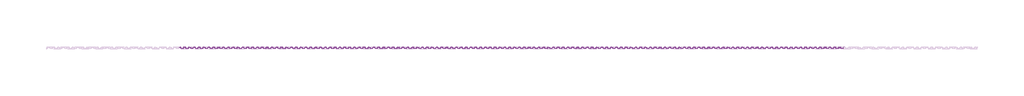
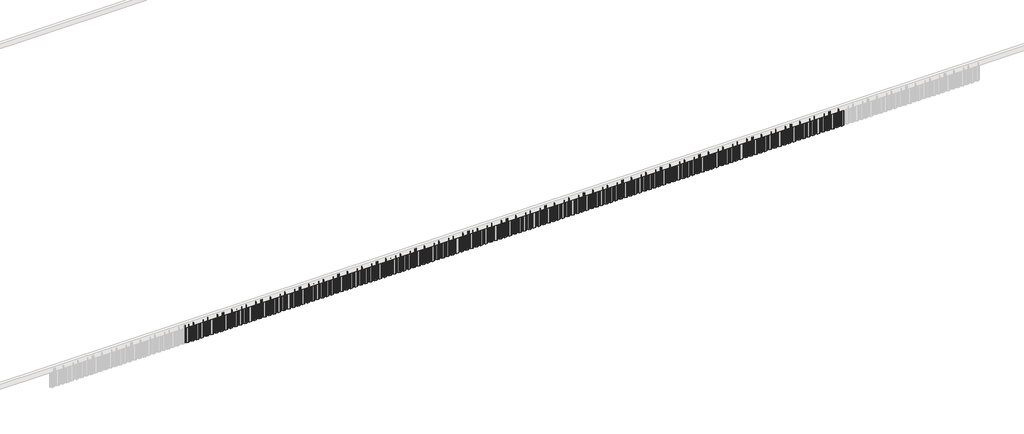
# One storey, part 2 of 6: 137 proxies.
"""IFC4 building model written with IfcOpenShell, lengths in millimetres."""

from ifc_helpers import new_model, si_unit, origin, place, context, project, spatial, transform, mapped, element, save
from components import generic_models_7553901d

model = new_model("IFC4")

# Units and contexts
model_context = context("Model", 3, world=origin())
ifc_project = project(units=[si_unit("LENGTHUNIT", "METRE", prefix="MILLI")], contexts=[model_context])

# Site, building, storey
site = spatial("IfcSite", under=ifc_project)
building = spatial("IfcBuilding", under=site)
storey = spatial("IfcBuildingStorey", under=building, Name="矢板", Elevation=0.0)

# Proxies
placement = place(None, origin())
generic_models_shape = generic_models_7553901d(model_context)
element("IfcBuildingElementProxy", 1, Name="鋼矢板10H型 : 鋼矢板10H型", ObjectType="鋼矢板10H型 : 鋼矢板10H型", at=placement, inside=storey, context=model_context, shape_type="MappedRepresentation", body=[
    mapped(generic_models_shape, transform((57402.5, -52500.0, 5850.0), x_axis=(-1.0, 0.0, 0.0), y_axis=(0.0, -1.0, 0.0), z_axis=(0.0, 0.0, 1.0))),
])
element("IfcBuildingElementProxy", 2, Name="鋼矢板10H型 : 鋼矢板10H型", ObjectType="鋼矢板10H型 : 鋼矢板10H型", at=placement, inside=storey, context=model_context, shape_type="MappedRepresentation", body=[
    mapped(generic_models_shape, transform((56502.5, -52500.0, 5850.0), x_axis=(-1.0, 0.0, 0.0), y_axis=(0.0, -1.0, 0.0), z_axis=(0.0, 0.0, 1.0))),
])
element("IfcBuildingElementProxy", 3, Name="鋼矢板10H型 : 鋼矢板10H型", ObjectType="鋼矢板10H型 : 鋼矢板10H型", at=placement, inside=storey, context=model_context, shape_type="MappedRepresentation", body=[
    mapped(generic_models_shape, transform((55602.5, -52500.0, 5850.0), x_axis=(-1.0, 0.0, 0.0), y_axis=(0.0, -1.0, 0.0), z_axis=(0.0, 0.0, 1.0))),
])
element("IfcBuildingElementProxy", 4, Name="鋼矢板10H型 : 鋼矢板10H型", ObjectType="鋼矢板10H型 : 鋼矢板10H型", at=placement, inside=storey, context=model_context, shape_type="MappedRepresentation", body=[
    mapped(generic_models_shape, transform((54702.5, -52500.0, 5850.0), x_axis=(-1.0, 0.0, 0.0), y_axis=(0.0, -1.0, 0.0), z_axis=(0.0, 0.0, 1.0))),
])
element("IfcBuildingElementProxy", 5, Name="鋼矢板10H型 : 鋼矢板10H型", ObjectType="鋼矢板10H型 : 鋼矢板10H型", at=placement, inside=storey, context=model_context, shape_type="MappedRepresentation", body=[
    mapped(generic_models_shape, transform((53802.5, -52500.0, 5850.0), x_axis=(-1.0, 0.0, 0.0), y_axis=(0.0, -1.0, 0.0), z_axis=(0.0, 0.0, 1.0))),
])
element("IfcBuildingElementProxy", 6, Name="鋼矢板10H型 : 鋼矢板10H型", ObjectType="鋼矢板10H型 : 鋼矢板10H型", at=placement, inside=storey, context=model_context, shape_type="MappedRepresentation", body=[
    mapped(generic_models_shape, transform((52902.5, -52500.0, 5850.0), x_axis=(-1.0, 0.0, 0.0), y_axis=(0.0, -1.0, 0.0), z_axis=(0.0, 0.0, 1.0))),
])
element("IfcBuildingElementProxy", 7, Name="鋼矢板10H型 : 鋼矢板10H型", ObjectType="鋼矢板10H型 : 鋼矢板10H型", at=placement, inside=storey, context=model_context, shape_type="MappedRepresentation", body=[
    mapped(generic_models_shape, transform((52002.5, -52500.0, 5850.0), x_axis=(-1.0, 0.0, 0.0), y_axis=(0.0, -1.0, 0.0), z_axis=(0.0, 0.0, 1.0))),
])
element("IfcBuildingElementProxy", 8, Name="鋼矢板10H型 : 鋼矢板10H型", ObjectType="鋼矢板10H型 : 鋼矢板10H型", at=placement, inside=storey, context=model_context, shape_type="MappedRepresentation", body=[
    mapped(generic_models_shape, transform((51102.5, -52500.0, 5850.0), x_axis=(-1.0, 0.0, 0.0), y_axis=(0.0, -1.0, 0.0), z_axis=(0.0, 0.0, 1.0))),
])
element("IfcBuildingElementProxy", 9, Name="鋼矢板10H型 : 鋼矢板10H型", ObjectType="鋼矢板10H型 : 鋼矢板10H型", at=placement, inside=storey, context=model_context, shape_type="MappedRepresentation", body=[
    mapped(generic_models_shape, transform((50202.5, -52500.0, 5850.0), x_axis=(-1.0, 0.0, 0.0), y_axis=(0.0, -1.0, 0.0), z_axis=(0.0, 0.0, 1.0))),
])
element("IfcBuildingElementProxy", 10, Name="鋼矢板10H型 : 鋼矢板10H型", ObjectType="鋼矢板10H型 : 鋼矢板10H型", at=placement, inside=storey, context=model_context, shape_type="MappedRepresentation", body=[
    mapped(generic_models_shape, transform((49302.5, -52500.0, 5850.0), x_axis=(-1.0, 0.0, 0.0), y_axis=(0.0, -1.0, 0.0), z_axis=(0.0, 0.0, 1.0))),
])
element("IfcBuildingElementProxy", 11, Name="鋼矢板10H型 : 鋼矢板10H型", ObjectType="鋼矢板10H型 : 鋼矢板10H型", at=placement, inside=storey, context=model_context, shape_type="MappedRepresentation", body=[
    mapped(generic_models_shape, transform((48402.5, -52500.0, 5850.0), x_axis=(-1.0, 0.0, 0.0), y_axis=(0.0, -1.0, 0.0), z_axis=(0.0, 0.0, 1.0))),
])
element("IfcBuildingElementProxy", 12, Name="鋼矢板10H型 : 鋼矢板10H型", ObjectType="鋼矢板10H型 : 鋼矢板10H型", at=placement, inside=storey, context=model_context, shape_type="MappedRepresentation", body=[
    mapped(generic_models_shape, transform((47502.5, -52500.0, 5850.0), x_axis=(-1.0, 0.0, 0.0), y_axis=(0.0, -1.0, 0.0), z_axis=(0.0, 0.0, 1.0))),
])
element("IfcBuildingElementProxy", 13, Name="鋼矢板10H型 : 鋼矢板10H型", ObjectType="鋼矢板10H型 : 鋼矢板10H型", at=placement, inside=storey, context=model_context, shape_type="MappedRepresentation", body=[
    mapped(generic_models_shape, transform((46602.5, -52500.0, 5850.0), x_axis=(-1.0, 0.0, 0.0), y_axis=(0.0, -1.0, 0.0), z_axis=(0.0, 0.0, 1.0))),
])
element("IfcBuildingElementProxy", 14, Name="鋼矢板10H型 : 鋼矢板10H型", ObjectType="鋼矢板10H型 : 鋼矢板10H型", at=placement, inside=storey, context=model_context, shape_type="MappedRepresentation", body=[
    mapped(generic_models_shape, transform((45702.5, -52500.0, 5850.0), x_axis=(-1.0, 0.0, 0.0), y_axis=(0.0, -1.0, 0.0), z_axis=(0.0, 0.0, 1.0))),
])
element("IfcBuildingElementProxy", 15, Name="鋼矢板10H型 : 鋼矢板10H型", ObjectType="鋼矢板10H型 : 鋼矢板10H型", at=placement, inside=storey, context=model_context, shape_type="MappedRepresentation", body=[
    mapped(generic_models_shape, transform((44802.5, -52500.0, 5850.0), x_axis=(-1.0, 0.0, 0.0), y_axis=(0.0, -1.0, 0.0), z_axis=(0.0, 0.0, 1.0))),
])
element("IfcBuildingElementProxy", 16, Name="鋼矢板10H型 : 鋼矢板10H型", ObjectType="鋼矢板10H型 : 鋼矢板10H型", at=placement, inside=storey, context=model_context, shape_type="MappedRepresentation", body=[
    mapped(generic_models_shape, transform((43902.5, -52500.0, 5850.0), x_axis=(-1.0, 0.0, 0.0), y_axis=(0.0, -1.0, 0.0), z_axis=(0.0, 0.0, 1.0))),
])
element("IfcBuildingElementProxy", 17, Name="鋼矢板10H型 : 鋼矢板10H型", ObjectType="鋼矢板10H型 : 鋼矢板10H型", at=placement, inside=storey, context=model_context, shape_type="MappedRepresentation", body=[
    mapped(generic_models_shape, transform((43002.5, -52500.0, 5850.0), x_axis=(-1.0, 0.0, 0.0), y_axis=(0.0, -1.0, 0.0), z_axis=(0.0, 0.0, 1.0))),
])
element("IfcBuildingElementProxy", 18, Name="鋼矢板10H型 : 鋼矢板10H型", ObjectType="鋼矢板10H型 : 鋼矢板10H型", at=placement, inside=storey, context=model_context, shape_type="MappedRepresentation", body=[
    mapped(generic_models_shape, transform((42102.5, -52500.0, 5850.0), x_axis=(-1.0, 0.0, 0.0), y_axis=(0.0, -1.0, 0.0), z_axis=(0.0, 0.0, 1.0))),
])
element("IfcBuildingElementProxy", 19, Name="鋼矢板10H型 : 鋼矢板10H型", ObjectType="鋼矢板10H型 : 鋼矢板10H型", at=placement, inside=storey, context=model_context, shape_type="MappedRepresentation", body=[
    mapped(generic_models_shape, transform((41202.5, -52500.0, 5850.0), x_axis=(-1.0, 0.0, 0.0), y_axis=(0.0, -1.0, 0.0), z_axis=(0.0, 0.0, 1.0))),
])
element("IfcBuildingElementProxy", 20, Name="鋼矢板10H型 : 鋼矢板10H型", ObjectType="鋼矢板10H型 : 鋼矢板10H型", at=placement, inside=storey, context=model_context, shape_type="MappedRepresentation", body=[
    mapped(generic_models_shape, transform((40302.5, -52500.0, 5850.0), x_axis=(-1.0, 0.0, 0.0), y_axis=(0.0, -1.0, 0.0), z_axis=(0.0, 0.0, 1.0))),
])
element("IfcBuildingElementProxy", 21, Name="鋼矢板10H型 : 鋼矢板10H型", ObjectType="鋼矢板10H型 : 鋼矢板10H型", at=placement, inside=storey, context=model_context, shape_type="MappedRepresentation", body=[
    mapped(generic_models_shape, transform((39402.5, -52500.0, 5850.0), x_axis=(-1.0, 0.0, 0.0), y_axis=(0.0, -1.0, 0.0), z_axis=(0.0, 0.0, 1.0))),
])
element("IfcBuildingElementProxy", 22, Name="鋼矢板10H型 : 鋼矢板10H型", ObjectType="鋼矢板10H型 : 鋼矢板10H型", at=placement, inside=storey, context=model_context, shape_type="MappedRepresentation", body=[
    mapped(generic_models_shape, transform((38502.5, -52500.0, 5850.0), x_axis=(-1.0, 0.0, 0.0), y_axis=(0.0, -1.0, 0.0), z_axis=(0.0, 0.0, 1.0))),
])
element("IfcBuildingElementProxy", 23, Name="鋼矢板10H型 : 鋼矢板10H型", ObjectType="鋼矢板10H型 : 鋼矢板10H型", at=placement, inside=storey, context=model_context, shape_type="MappedRepresentation", body=[
    mapped(generic_models_shape, transform((37602.5, -52500.0, 5850.0), x_axis=(-1.0, 0.0, 0.0), y_axis=(0.0, -1.0, 0.0), z_axis=(0.0, 0.0, 1.0))),
])
element("IfcBuildingElementProxy", 24, Name="鋼矢板10H型 : 鋼矢板10H型", ObjectType="鋼矢板10H型 : 鋼矢板10H型", at=placement, inside=storey, context=model_context, shape_type="MappedRepresentation", body=[
    mapped(generic_models_shape, transform((36702.5, -52500.0, 5850.0), x_axis=(-1.0, 0.0, 0.0), y_axis=(0.0, -1.0, 0.0), z_axis=(0.0, 0.0, 1.0))),
])
element("IfcBuildingElementProxy", 25, Name="鋼矢板10H型 : 鋼矢板10H型", ObjectType="鋼矢板10H型 : 鋼矢板10H型", at=placement, inside=storey, context=model_context, shape_type="MappedRepresentation", body=[
    mapped(generic_models_shape, transform((35802.5, -52500.0, 5850.0), x_axis=(-1.0, 0.0, 0.0), y_axis=(0.0, -1.0, 0.0), z_axis=(0.0, 0.0, 1.0))),
])
element("IfcBuildingElementProxy", 26, Name="鋼矢板10H型 : 鋼矢板10H型", ObjectType="鋼矢板10H型 : 鋼矢板10H型", at=placement, inside=storey, context=model_context, shape_type="MappedRepresentation", body=[
    mapped(generic_models_shape, transform((34902.5, -52500.0, 5850.0), x_axis=(-1.0, 0.0, 0.0), y_axis=(0.0, -1.0, 0.0), z_axis=(0.0, 0.0, 1.0))),
])
element("IfcBuildingElementProxy", 27, Name="鋼矢板10H型 : 鋼矢板10H型", ObjectType="鋼矢板10H型 : 鋼矢板10H型", at=placement, inside=storey, context=model_context, shape_type="MappedRepresentation", body=[
    mapped(generic_models_shape, transform((34002.5, -52500.0, 5850.0), x_axis=(-1.0, 0.0, 0.0), y_axis=(0.0, -1.0, 0.0), z_axis=(0.0, 0.0, 1.0))),
])
element("IfcBuildingElementProxy", 28, Name="鋼矢板10H型 : 鋼矢板10H型", ObjectType="鋼矢板10H型 : 鋼矢板10H型", at=placement, inside=storey, context=model_context, shape_type="MappedRepresentation", body=[
    mapped(generic_models_shape, transform((33102.5, -52500.0, 5850.0), x_axis=(-1.0, 0.0, 0.0), y_axis=(0.0, -1.0, 0.0), z_axis=(0.0, 0.0, 1.0))),
])
element("IfcBuildingElementProxy", 29, Name="鋼矢板10H型 : 鋼矢板10H型", ObjectType="鋼矢板10H型 : 鋼矢板10H型", at=placement, inside=storey, context=model_context, shape_type="MappedRepresentation", body=[
    mapped(generic_models_shape, transform((32202.5, -52500.0, 5850.0), x_axis=(-1.0, 0.0, 0.0), y_axis=(0.0, -1.0, 0.0), z_axis=(0.0, 0.0, 1.0))),
])
element("IfcBuildingElementProxy", 30, Name="鋼矢板10H型 : 鋼矢板10H型", ObjectType="鋼矢板10H型 : 鋼矢板10H型", at=placement, inside=storey, context=model_context, shape_type="MappedRepresentation", body=[
    mapped(generic_models_shape, transform((31302.5, -52500.0, 5850.0), x_axis=(-1.0, 0.0, 0.0), y_axis=(0.0, -1.0, 0.0), z_axis=(0.0, 0.0, 1.0))),
])
element("IfcBuildingElementProxy", 31, Name="鋼矢板10H型 : 鋼矢板10H型", ObjectType="鋼矢板10H型 : 鋼矢板10H型", at=placement, inside=storey, context=model_context, shape_type="MappedRepresentation", body=[
    mapped(generic_models_shape, transform((30402.5, -52500.0, 5850.0), x_axis=(-1.0, 0.0, 0.0), y_axis=(0.0, -1.0, 0.0), z_axis=(0.0, 0.0, 1.0))),
])
element("IfcBuildingElementProxy", 32, Name="鋼矢板10H型 : 鋼矢板10H型", ObjectType="鋼矢板10H型 : 鋼矢板10H型", at=placement, inside=storey, context=model_context, shape_type="MappedRepresentation", body=[
    mapped(generic_models_shape, transform((29502.5, -52500.0, 5850.0), x_axis=(-1.0, 0.0, 0.0), y_axis=(0.0, -1.0, 0.0), z_axis=(0.0, 0.0, 1.0))),
])
element("IfcBuildingElementProxy", 33, Name="鋼矢板10H型 : 鋼矢板10H型", ObjectType="鋼矢板10H型 : 鋼矢板10H型", at=placement, inside=storey, context=model_context, shape_type="MappedRepresentation", body=[
    mapped(generic_models_shape, transform((28602.5, -52500.0, 5850.0), x_axis=(-1.0, 0.0, 0.0), y_axis=(0.0, -1.0, 0.0), z_axis=(0.0, 0.0, 1.0))),
])
element("IfcBuildingElementProxy", 34, Name="鋼矢板10H型 : 鋼矢板10H型", ObjectType="鋼矢板10H型 : 鋼矢板10H型", at=placement, inside=storey, context=model_context, shape_type="MappedRepresentation", body=[
    mapped(generic_models_shape, transform((27702.5, -52500.0, 5850.0), x_axis=(-1.0, 0.0, 0.0), y_axis=(0.0, -1.0, 0.0), z_axis=(0.0, 0.0, 1.0))),
])
element("IfcBuildingElementProxy", 35, Name="鋼矢板10H型 : 鋼矢板10H型", ObjectType="鋼矢板10H型 : 鋼矢板10H型", at=placement, inside=storey, context=model_context, shape_type="MappedRepresentation", body=[
    mapped(generic_models_shape, transform((26802.5, -52500.0, 5850.0), x_axis=(-1.0, 0.0, 0.0), y_axis=(0.0, -1.0, 0.0), z_axis=(0.0, 0.0, 1.0))),
])
element("IfcBuildingElementProxy", 36, Name="鋼矢板10H型 : 鋼矢板10H型", ObjectType="鋼矢板10H型 : 鋼矢板10H型", at=placement, inside=storey, context=model_context, shape_type="MappedRepresentation", body=[
    mapped(generic_models_shape, transform((25902.5, -52500.0, 5850.0), x_axis=(-1.0, 0.0, 0.0), y_axis=(0.0, -1.0, 0.0), z_axis=(0.0, 0.0, 1.0))),
])
element("IfcBuildingElementProxy", 37, Name="鋼矢板10H型 : 鋼矢板10H型", ObjectType="鋼矢板10H型 : 鋼矢板10H型", at=placement, inside=storey, context=model_context, shape_type="MappedRepresentation", body=[
    mapped(generic_models_shape, transform((25002.5, -52500.0, 5850.0), x_axis=(-1.0, 0.0, 0.0), y_axis=(0.0, -1.0, 0.0), z_axis=(0.0, 0.0, 1.0))),
])
element("IfcBuildingElementProxy", 38, Name="鋼矢板10H型 : 鋼矢板10H型", ObjectType="鋼矢板10H型 : 鋼矢板10H型", at=placement, inside=storey, context=model_context, shape_type="MappedRepresentation", body=[
    mapped(generic_models_shape, transform((24102.5, -52500.0, 5850.0), x_axis=(-1.0, 0.0, 0.0), y_axis=(0.0, -1.0, 0.0), z_axis=(0.0, 0.0, 1.0))),
])
element("IfcBuildingElementProxy", 39, Name="鋼矢板10H型 : 鋼矢板10H型", ObjectType="鋼矢板10H型 : 鋼矢板10H型", at=placement, inside=storey, context=model_context, shape_type="MappedRepresentation", body=[
    mapped(generic_models_shape, transform((23202.5, -52500.0, 5850.0), x_axis=(-1.0, 0.0, 0.0), y_axis=(0.0, -1.0, 0.0), z_axis=(0.0, 0.0, 1.0))),
])
element("IfcBuildingElementProxy", 40, Name="鋼矢板10H型 : 鋼矢板10H型", ObjectType="鋼矢板10H型 : 鋼矢板10H型", at=placement, inside=storey, context=model_context, shape_type="MappedRepresentation", body=[
    mapped(generic_models_shape, transform((22302.5, -52500.0, 5850.0), x_axis=(-1.0, 0.0, 0.0), y_axis=(0.0, -1.0, 0.0), z_axis=(0.0, 0.0, 1.0))),
])
element("IfcBuildingElementProxy", 41, Name="鋼矢板10H型 : 鋼矢板10H型", ObjectType="鋼矢板10H型 : 鋼矢板10H型", at=placement, inside=storey, context=model_context, shape_type="MappedRepresentation", body=[
    mapped(generic_models_shape, transform((21402.5, -52500.0, 5850.0), x_axis=(-1.0, 0.0, 0.0), y_axis=(0.0, -1.0, 0.0), z_axis=(0.0, 0.0, 1.0))),
])
element("IfcBuildingElementProxy", 42, Name="鋼矢板10H型 : 鋼矢板10H型", ObjectType="鋼矢板10H型 : 鋼矢板10H型", at=placement, inside=storey, context=model_context, shape_type="MappedRepresentation", body=[
    mapped(generic_models_shape, transform((20502.5, -52500.0, 5850.0), x_axis=(-1.0, 0.0, 0.0), y_axis=(0.0, -1.0, 0.0), z_axis=(0.0, 0.0, 1.0))),
])
element("IfcBuildingElementProxy", 43, Name="鋼矢板10H型 : 鋼矢板10H型", ObjectType="鋼矢板10H型 : 鋼矢板10H型", at=placement, inside=storey, context=model_context, shape_type="MappedRepresentation", body=[
    mapped(generic_models_shape, transform((19602.5, -52500.0, 5850.0), x_axis=(-1.0, 0.0, 0.0), y_axis=(0.0, -1.0, 0.0), z_axis=(0.0, 0.0, 1.0))),
])
element("IfcBuildingElementProxy", 44, Name="鋼矢板10H型 : 鋼矢板10H型", ObjectType="鋼矢板10H型 : 鋼矢板10H型", at=placement, inside=storey, context=model_context, shape_type="MappedRepresentation", body=[
    mapped(generic_models_shape, transform((18702.5, -52500.0, 5850.0), x_axis=(-1.0, 0.0, 0.0), y_axis=(0.0, -1.0, 0.0), z_axis=(0.0, 0.0, 1.0))),
])
element("IfcBuildingElementProxy", 45, Name="鋼矢板10H型 : 鋼矢板10H型", ObjectType="鋼矢板10H型 : 鋼矢板10H型", at=placement, inside=storey, context=model_context, shape_type="MappedRepresentation", body=[
    mapped(generic_models_shape, transform((17802.5, -52500.0, 5850.0), x_axis=(-1.0, 0.0, 0.0), y_axis=(0.0, -1.0, 0.0), z_axis=(0.0, 0.0, 1.0))),
])
element("IfcBuildingElementProxy", 46, Name="鋼矢板10H型 : 鋼矢板10H型", ObjectType="鋼矢板10H型 : 鋼矢板10H型", at=placement, inside=storey, context=model_context, shape_type="MappedRepresentation", body=[
    mapped(generic_models_shape, transform((16902.5, -52500.0, 5850.0), x_axis=(-1.0, 0.0, 0.0), y_axis=(0.0, -1.0, 0.0), z_axis=(0.0, 0.0, 1.0))),
])
element("IfcBuildingElementProxy", 47, Name="鋼矢板10H型 : 鋼矢板10H型", ObjectType="鋼矢板10H型 : 鋼矢板10H型", at=placement, inside=storey, context=model_context, shape_type="MappedRepresentation", body=[
    mapped(generic_models_shape, transform((16002.5, -52500.0, 5850.0), x_axis=(-1.0, 0.0, 0.0), y_axis=(0.0, -1.0, 0.0), z_axis=(0.0, 0.0, 1.0))),
])
element("IfcBuildingElementProxy", 48, Name="鋼矢板10H型 : 鋼矢板10H型", ObjectType="鋼矢板10H型 : 鋼矢板10H型", at=placement, inside=storey, context=model_context, shape_type="MappedRepresentation", body=[
    mapped(generic_models_shape, transform((15102.5, -52500.0, 5850.0), x_axis=(-1.0, 0.0, 0.0), y_axis=(0.0, -1.0, 0.0), z_axis=(0.0, 0.0, 1.0))),
])
element("IfcBuildingElementProxy", 49, Name="鋼矢板10H型 : 鋼矢板10H型", ObjectType="鋼矢板10H型 : 鋼矢板10H型", at=placement, inside=storey, context=model_context, shape_type="MappedRepresentation", body=[
    mapped(generic_models_shape, transform((14202.5, -52500.0, 5850.0), x_axis=(-1.0, 0.0, 0.0), y_axis=(0.0, -1.0, 0.0), z_axis=(0.0, 0.0, 1.0))),
])
element("IfcBuildingElementProxy", 50, Name="鋼矢板10H型 : 鋼矢板10H型", ObjectType="鋼矢板10H型 : 鋼矢板10H型", at=placement, inside=storey, context=model_context, shape_type="MappedRepresentation", body=[
    mapped(generic_models_shape, transform((13302.5, -52500.0, 5850.0), x_axis=(-1.0, 0.0, 0.0), y_axis=(0.0, -1.0, 0.0), z_axis=(0.0, 0.0, 1.0))),
])
element("IfcBuildingElementProxy", 51, Name="鋼矢板10H型 : 鋼矢板10H型", ObjectType="鋼矢板10H型 : 鋼矢板10H型", at=placement, inside=storey, context=model_context, shape_type="MappedRepresentation", body=[
    mapped(generic_models_shape, transform((12402.5, -52500.0, 5850.0), x_axis=(-1.0, 0.0, 0.0), y_axis=(0.0, -1.0, 0.0), z_axis=(0.0, 0.0, 1.0))),
])
element("IfcBuildingElementProxy", 52, Name="鋼矢板10H型 : 鋼矢板10H型", ObjectType="鋼矢板10H型 : 鋼矢板10H型", at=placement, inside=storey, context=model_context, shape_type="MappedRepresentation", body=[
    mapped(generic_models_shape, transform((11502.5, -52500.0, 5850.0), x_axis=(-1.0, 0.0, 0.0), y_axis=(0.0, -1.0, 0.0), z_axis=(0.0, 0.0, 1.0))),
])
element("IfcBuildingElementProxy", 53, Name="鋼矢板10H型 : 鋼矢板10H型", ObjectType="鋼矢板10H型 : 鋼矢板10H型", at=placement, inside=storey, context=model_context, shape_type="MappedRepresentation", body=[
    mapped(generic_models_shape, transform((10602.5, -52500.0, 5850.0), x_axis=(-1.0, 0.0, 0.0), y_axis=(0.0, -1.0, 0.0), z_axis=(0.0, 0.0, 1.0))),
])
element("IfcBuildingElementProxy", 54, Name="鋼矢板10H型 : 鋼矢板10H型", ObjectType="鋼矢板10H型 : 鋼矢板10H型", at=placement, inside=storey, context=model_context, shape_type="MappedRepresentation", body=[
    mapped(generic_models_shape, transform((9702.5, -52500.0, 5850.0), x_axis=(-1.0, 0.0, 0.0), y_axis=(0.0, -1.0, 0.0), z_axis=(0.0, 0.0, 1.0))),
])
element("IfcBuildingElementProxy", 55, Name="鋼矢板10H型 : 鋼矢板10H型", ObjectType="鋼矢板10H型 : 鋼矢板10H型", at=placement, inside=storey, context=model_context, shape_type="MappedRepresentation", body=[
    mapped(generic_models_shape, transform((8802.5, -52500.0, 5850.0), x_axis=(-1.0, 0.0, 0.0), y_axis=(0.0, -1.0, 0.0), z_axis=(0.0, 0.0, 1.0))),
])
element("IfcBuildingElementProxy", 56, Name="鋼矢板10H型 : 鋼矢板10H型", ObjectType="鋼矢板10H型 : 鋼矢板10H型", at=placement, inside=storey, context=model_context, shape_type="MappedRepresentation", body=[
    mapped(generic_models_shape, transform((7902.5, -52500.0, 5850.0), x_axis=(-1.0, 0.0, 0.0), y_axis=(0.0, -1.0, 0.0), z_axis=(0.0, 0.0, 1.0))),
])
element("IfcBuildingElementProxy", 57, Name="鋼矢板10H型 : 鋼矢板10H型", ObjectType="鋼矢板10H型 : 鋼矢板10H型", at=placement, inside=storey, context=model_context, shape_type="MappedRepresentation", body=[
    mapped(generic_models_shape, transform((7002.5, -52500.0, 5850.0), x_axis=(-1.0, 0.0, 0.0), y_axis=(0.0, -1.0, 0.0), z_axis=(0.0, 0.0, 1.0))),
])
element("IfcBuildingElementProxy", 58, Name="鋼矢板10H型 : 鋼矢板10H型", ObjectType="鋼矢板10H型 : 鋼矢板10H型", at=placement, inside=storey, context=model_context, shape_type="MappedRepresentation", body=[
    mapped(generic_models_shape, transform((6102.5, -52500.0, 5850.0), x_axis=(-1.0, 0.0, 0.0), y_axis=(0.0, -1.0, 0.0), z_axis=(0.0, 0.0, 1.0))),
])
element("IfcBuildingElementProxy", 59, Name="鋼矢板10H型 : 鋼矢板10H型", ObjectType="鋼矢板10H型 : 鋼矢板10H型", at=placement, inside=storey, context=model_context, shape_type="MappedRepresentation", body=[
    mapped(generic_models_shape, transform((5202.5, -52500.0, 5850.0), x_axis=(-1.0, 0.0, 0.0), y_axis=(0.0, -1.0, 0.0), z_axis=(0.0, 0.0, 1.0))),
])
element("IfcBuildingElementProxy", 60, Name="鋼矢板10H型 : 鋼矢板10H型", ObjectType="鋼矢板10H型 : 鋼矢板10H型", at=placement, inside=storey, context=model_context, shape_type="MappedRepresentation", body=[
    mapped(generic_models_shape, transform((4302.5, -52500.0, 5850.0), x_axis=(-1.0, 0.0, 0.0), y_axis=(0.0, -1.0, 0.0), z_axis=(0.0, 0.0, 1.0))),
])
element("IfcBuildingElementProxy", 61, Name="鋼矢板10H型 : 鋼矢板10H型", ObjectType="鋼矢板10H型 : 鋼矢板10H型", at=placement, inside=storey, context=model_context, shape_type="MappedRepresentation", body=[
    mapped(generic_models_shape, transform((3402.5, -52500.0, 5850.0), x_axis=(-1.0, 0.0, 0.0), y_axis=(0.0, -1.0, 0.0), z_axis=(0.0, 0.0, 1.0))),
])
element("IfcBuildingElementProxy", 62, Name="鋼矢板10H型 : 鋼矢板10H型", ObjectType="鋼矢板10H型 : 鋼矢板10H型", at=placement, inside=storey, context=model_context, shape_type="MappedRepresentation", body=[
    mapped(generic_models_shape, transform((2502.5, -52500.0, 5850.0), x_axis=(-1.0, 0.0, 0.0), y_axis=(0.0, -1.0, 0.0), z_axis=(0.0, 0.0, 1.0))),
])
element("IfcBuildingElementProxy", 63, Name="鋼矢板10H型 : 鋼矢板10H型", ObjectType="鋼矢板10H型 : 鋼矢板10H型", at=placement, inside=storey, context=model_context, shape_type="MappedRepresentation", body=[
    mapped(generic_models_shape, transform((1602.5, -52500.0, 5850.0), x_axis=(-1.0, 0.0, 0.0), y_axis=(0.0, -1.0, 0.0), z_axis=(0.0, 0.0, 1.0))),
])
element("IfcBuildingElementProxy", 64, Name="鋼矢板10H型 : 鋼矢板10H型", ObjectType="鋼矢板10H型 : 鋼矢板10H型", at=placement, inside=storey, context=model_context, shape_type="MappedRepresentation", body=[
    mapped(generic_models_shape, transform((702.5, -52500.0, 5850.0), x_axis=(-1.0, 0.0, 0.0), y_axis=(0.0, -1.0, 0.0), z_axis=(0.0, 0.0, 1.0))),
])
element("IfcBuildingElementProxy", 65, Name="鋼矢板10H型 : 鋼矢板10H型", ObjectType="鋼矢板10H型 : 鋼矢板10H型", at=placement, inside=storey, context=model_context, shape_type="MappedRepresentation", body=[
    mapped(generic_models_shape, transform((-197.5, -52500.0, 5850.0), x_axis=(-1.0, 0.0, 0.0), y_axis=(0.0, -1.0, 0.0), z_axis=(0.0, 0.0, 1.0))),
])
element("IfcBuildingElementProxy", 66, Name="鋼矢板10H型 : 鋼矢板10H型", ObjectType="鋼矢板10H型 : 鋼矢板10H型", at=placement, inside=storey, context=model_context, shape_type="MappedRepresentation", body=[
    mapped(generic_models_shape, transform((-1097.5, -52500.0, 5850.0), x_axis=(-1.0, 0.0, 0.0), y_axis=(0.0, -1.0, 0.0), z_axis=(0.0, 0.0, 1.0))),
])
element("IfcBuildingElementProxy", 67, Name="鋼矢板10H型 : 鋼矢板10H型", ObjectType="鋼矢板10H型 : 鋼矢板10H型", at=placement, inside=storey, context=model_context, shape_type="MappedRepresentation", body=[
    mapped(generic_models_shape, transform((-1997.5, -52500.0, 5850.0), x_axis=(-1.0, 0.0, 0.0), y_axis=(0.0, -1.0, 0.0), z_axis=(0.0, 0.0, 1.0))),
])
element("IfcBuildingElementProxy", 68, Name="鋼矢板10H型 : 鋼矢板10H型", ObjectType="鋼矢板10H型 : 鋼矢板10H型", at=placement, inside=storey, context=model_context, shape_type="MappedRepresentation", body=[
    mapped(generic_models_shape, transform((-2897.5, -52500.0, 5850.0), x_axis=(-1.0, 0.0, 0.0), y_axis=(0.0, -1.0, 0.0), z_axis=(0.0, 0.0, 1.0))),
])
element("IfcBuildingElementProxy", 69, Name="鋼矢板10H型 : 鋼矢板10H型", ObjectType="鋼矢板10H型 : 鋼矢板10H型", at=placement, inside=storey, context=model_context, shape_type="MappedRepresentation", body=[
    mapped(generic_models_shape, transform((-3797.5, -52500.0, 5850.0), x_axis=(-1.0, 0.0, 0.0), y_axis=(0.0, -1.0, 0.0), z_axis=(0.0, 0.0, 1.0))),
])
element("IfcBuildingElementProxy", 70, Name="鋼矢板10H型 : 鋼矢板10H型", ObjectType="鋼矢板10H型 : 鋼矢板10H型", at=placement, inside=storey, context=model_context, shape_type="MappedRepresentation", body=[
    mapped(generic_models_shape, transform((-4697.5, -52500.0, 5850.0), x_axis=(-1.0, 0.0, 0.0), y_axis=(0.0, -1.0, 0.0), z_axis=(0.0, 0.0, 1.0))),
])
element("IfcBuildingElementProxy", 71, Name="鋼矢板10H型 : 鋼矢板10H型", ObjectType="鋼矢板10H型 : 鋼矢板10H型", at=placement, inside=storey, context=model_context, shape_type="MappedRepresentation", body=[
    mapped(generic_models_shape, transform((-5597.5, -52500.0, 5850.0), x_axis=(-1.0, 0.0, 0.0), y_axis=(0.0, -1.0, 0.0), z_axis=(0.0, 0.0, 1.0))),
])
element("IfcBuildingElementProxy", 72, Name="鋼矢板10H型 : 鋼矢板10H型", ObjectType="鋼矢板10H型 : 鋼矢板10H型", at=placement, inside=storey, context=model_context, shape_type="MappedRepresentation", body=[
    mapped(generic_models_shape, transform((-6497.5, -52500.0, 5850.0), x_axis=(-1.0, 0.0, 0.0), y_axis=(0.0, -1.0, 0.0), z_axis=(0.0, 0.0, 1.0))),
])
element("IfcBuildingElementProxy", 73, Name="鋼矢板10H型 : 鋼矢板10H型", ObjectType="鋼矢板10H型 : 鋼矢板10H型", at=placement, inside=storey, context=model_context, shape_type="MappedRepresentation", body=[
    mapped(generic_models_shape, transform((-7397.5, -52500.0, 5850.0), x_axis=(-1.0, 0.0, 0.0), y_axis=(0.0, -1.0, 0.0), z_axis=(0.0, 0.0, 1.0))),
])
element("IfcBuildingElementProxy", 74, Name="鋼矢板10H型 : 鋼矢板10H型", ObjectType="鋼矢板10H型 : 鋼矢板10H型", at=placement, inside=storey, context=model_context, shape_type="MappedRepresentation", body=[
    mapped(generic_models_shape, transform((-8297.5, -52500.0, 5850.0), x_axis=(-1.0, 0.0, 0.0), y_axis=(0.0, -1.0, 0.0), z_axis=(0.0, 0.0, 1.0))),
])
element("IfcBuildingElementProxy", 75, Name="鋼矢板10H型 : 鋼矢板10H型", ObjectType="鋼矢板10H型 : 鋼矢板10H型", at=placement, inside=storey, context=model_context, shape_type="MappedRepresentation", body=[
    mapped(generic_models_shape, transform((-9197.5, -52500.0, 5850.0), x_axis=(-1.0, 0.0, 0.0), y_axis=(0.0, -1.0, 0.0), z_axis=(0.0, 0.0, 1.0))),
])
element("IfcBuildingElementProxy", 76, Name="鋼矢板10H型 : 鋼矢板10H型", ObjectType="鋼矢板10H型 : 鋼矢板10H型", at=placement, inside=storey, context=model_context, shape_type="MappedRepresentation", body=[
    mapped(generic_models_shape, transform((-10097.5, -52500.0, 5850.0), x_axis=(-1.0, 0.0, 0.0), y_axis=(0.0, -1.0, 0.0), z_axis=(0.0, 0.0, 1.0))),
])
element("IfcBuildingElementProxy", 77, Name="鋼矢板10H型 : 鋼矢板10H型", ObjectType="鋼矢板10H型 : 鋼矢板10H型", at=placement, inside=storey, context=model_context, shape_type="MappedRepresentation", body=[
    mapped(generic_models_shape, transform((-10997.5, -52500.0, 5850.0), x_axis=(-1.0, 0.0, 0.0), y_axis=(0.0, -1.0, 0.0), z_axis=(0.0, 0.0, 1.0))),
])
element("IfcBuildingElementProxy", 78, Name="鋼矢板10H型 : 鋼矢板10H型", ObjectType="鋼矢板10H型 : 鋼矢板10H型", at=placement, inside=storey, context=model_context, shape_type="MappedRepresentation", body=[
    mapped(generic_models_shape, transform((-11897.5, -52500.0, 5850.0), x_axis=(-1.0, 0.0, 0.0), y_axis=(0.0, -1.0, 0.0), z_axis=(0.0, 0.0, 1.0))),
])
element("IfcBuildingElementProxy", 79, Name="鋼矢板10H型 : 鋼矢板10H型", ObjectType="鋼矢板10H型 : 鋼矢板10H型", at=placement, inside=storey, context=model_context, shape_type="MappedRepresentation", body=[
    mapped(generic_models_shape, transform((-12797.5, -52500.0, 5850.0), x_axis=(-1.0, 0.0, 0.0), y_axis=(0.0, -1.0, 0.0), z_axis=(0.0, 0.0, 1.0))),
])
element("IfcBuildingElementProxy", 80, Name="鋼矢板10H型 : 鋼矢板10H型", ObjectType="鋼矢板10H型 : 鋼矢板10H型", at=placement, inside=storey, context=model_context, shape_type="MappedRepresentation", body=[
    mapped(generic_models_shape, transform((-13697.5, -52500.0, 5850.0), x_axis=(-1.0, 0.0, 0.0), y_axis=(0.0, -1.0, 0.0), z_axis=(0.0, 0.0, 1.0))),
])
element("IfcBuildingElementProxy", 81, Name="鋼矢板10H型 : 鋼矢板10H型", ObjectType="鋼矢板10H型 : 鋼矢板10H型", at=placement, inside=storey, context=model_context, shape_type="MappedRepresentation", body=[
    mapped(generic_models_shape, transform((-14597.5, -52500.0, 5850.0), x_axis=(-1.0, 0.0, 0.0), y_axis=(0.0, -1.0, 0.0), z_axis=(0.0, 0.0, 1.0))),
])
element("IfcBuildingElementProxy", 82, Name="鋼矢板10H型 : 鋼矢板10H型", ObjectType="鋼矢板10H型 : 鋼矢板10H型", at=placement, inside=storey, context=model_context, shape_type="MappedRepresentation", body=[
    mapped(generic_models_shape, transform((-15497.5, -52500.0, 5850.0), x_axis=(-1.0, 0.0, 0.0), y_axis=(0.0, -1.0, 0.0), z_axis=(0.0, 0.0, 1.0))),
])
element("IfcBuildingElementProxy", 83, Name="鋼矢板10H型 : 鋼矢板10H型", ObjectType="鋼矢板10H型 : 鋼矢板10H型", at=placement, inside=storey, context=model_context, shape_type="MappedRepresentation", body=[
    mapped(generic_models_shape, transform((-16397.5, -52500.0, 5850.0), x_axis=(-1.0, 0.0, 0.0), y_axis=(0.0, -1.0, 0.0), z_axis=(0.0, 0.0, 1.0))),
])
element("IfcBuildingElementProxy", 84, Name="鋼矢板10H型 : 鋼矢板10H型", ObjectType="鋼矢板10H型 : 鋼矢板10H型", at=placement, inside=storey, context=model_context, shape_type="MappedRepresentation", body=[
    mapped(generic_models_shape, transform((-17297.5, -52500.0, 5850.0), x_axis=(-1.0, 0.0, 0.0), y_axis=(0.0, -1.0, 0.0), z_axis=(0.0, 0.0, 1.0))),
])
element("IfcBuildingElementProxy", 85, Name="鋼矢板10H型 : 鋼矢板10H型", ObjectType="鋼矢板10H型 : 鋼矢板10H型", at=placement, inside=storey, context=model_context, shape_type="MappedRepresentation", body=[
    mapped(generic_models_shape, transform((-18197.5, -52500.0, 5850.0), x_axis=(-1.0, 0.0, 0.0), y_axis=(0.0, -1.0, 0.0), z_axis=(0.0, 0.0, 1.0))),
])
element("IfcBuildingElementProxy", 86, Name="鋼矢板10H型 : 鋼矢板10H型", ObjectType="鋼矢板10H型 : 鋼矢板10H型", at=placement, inside=storey, context=model_context, shape_type="MappedRepresentation", body=[
    mapped(generic_models_shape, transform((-19097.5, -52500.0, 5850.0), x_axis=(-1.0, 0.0, 0.0), y_axis=(0.0, -1.0, 0.0), z_axis=(0.0, 0.0, 1.0))),
])
element("IfcBuildingElementProxy", 87, Name="鋼矢板10H型 : 鋼矢板10H型", ObjectType="鋼矢板10H型 : 鋼矢板10H型", at=placement, inside=storey, context=model_context, shape_type="MappedRepresentation", body=[
    mapped(generic_models_shape, transform((-19997.5, -52500.0, 5850.0), x_axis=(-1.0, 0.0, 0.0), y_axis=(0.0, -1.0, 0.0), z_axis=(0.0, 0.0, 1.0))),
])
element("IfcBuildingElementProxy", 88, Name="鋼矢板10H型 : 鋼矢板10H型", ObjectType="鋼矢板10H型 : 鋼矢板10H型", at=placement, inside=storey, context=model_context, shape_type="MappedRepresentation", body=[
    mapped(generic_models_shape, transform((-20897.5, -52500.0, 5850.0), x_axis=(-1.0, 0.0, 0.0), y_axis=(0.0, -1.0, 0.0), z_axis=(0.0, 0.0, 1.0))),
])
element("IfcBuildingElementProxy", 89, Name="鋼矢板10H型 : 鋼矢板10H型", ObjectType="鋼矢板10H型 : 鋼矢板10H型", at=placement, inside=storey, context=model_context, shape_type="MappedRepresentation", body=[
    mapped(generic_models_shape, transform((-21797.5, -52500.0, 5850.0), x_axis=(-1.0, 0.0, 0.0), y_axis=(0.0, -1.0, 0.0), z_axis=(0.0, 0.0, 1.0))),
])
element("IfcBuildingElementProxy", 90, Name="鋼矢板10H型 : 鋼矢板10H型", ObjectType="鋼矢板10H型 : 鋼矢板10H型", at=placement, inside=storey, context=model_context, shape_type="MappedRepresentation", body=[
    mapped(generic_models_shape, transform((-22697.5, -52500.0, 5850.0), x_axis=(-1.0, 0.0, 0.0), y_axis=(0.0, -1.0, 0.0), z_axis=(0.0, 0.0, 1.0))),
])
element("IfcBuildingElementProxy", 91, Name="鋼矢板10H型 : 鋼矢板10H型", ObjectType="鋼矢板10H型 : 鋼矢板10H型", at=placement, inside=storey, context=model_context, shape_type="MappedRepresentation", body=[
    mapped(generic_models_shape, transform((-23597.5, -52500.0, 5850.0), x_axis=(-1.0, 0.0, 0.0), y_axis=(0.0, -1.0, 0.0), z_axis=(0.0, 0.0, 1.0))),
])
element("IfcBuildingElementProxy", 92, Name="鋼矢板10H型 : 鋼矢板10H型", ObjectType="鋼矢板10H型 : 鋼矢板10H型", at=placement, inside=storey, context=model_context, shape_type="MappedRepresentation", body=[
    mapped(generic_models_shape, transform((-24497.5, -52500.0, 5850.0), x_axis=(-1.0, 0.0, 0.0), y_axis=(0.0, -1.0, 0.0), z_axis=(0.0, 0.0, 1.0))),
])
element("IfcBuildingElementProxy", 93, Name="鋼矢板10H型 : 鋼矢板10H型", ObjectType="鋼矢板10H型 : 鋼矢板10H型", at=placement, inside=storey, context=model_context, shape_type="MappedRepresentation", body=[
    mapped(generic_models_shape, transform((-25397.5, -52500.0, 5850.0), x_axis=(-1.0, 0.0, 0.0), y_axis=(0.0, -1.0, 0.0), z_axis=(0.0, 0.0, 1.0))),
])
element("IfcBuildingElementProxy", 94, Name="鋼矢板10H型 : 鋼矢板10H型", ObjectType="鋼矢板10H型 : 鋼矢板10H型", at=placement, inside=storey, context=model_context, shape_type="MappedRepresentation", body=[
    mapped(generic_models_shape, transform((-26297.5, -52500.0, 5850.0), x_axis=(-1.0, 0.0, 0.0), y_axis=(0.0, -1.0, 0.0), z_axis=(0.0, 0.0, 1.0))),
])
element("IfcBuildingElementProxy", 95, Name="鋼矢板10H型 : 鋼矢板10H型", ObjectType="鋼矢板10H型 : 鋼矢板10H型", at=placement, inside=storey, context=model_context, shape_type="MappedRepresentation", body=[
    mapped(generic_models_shape, transform((-27197.5, -52500.0, 5850.0), x_axis=(-1.0, 0.0, 0.0), y_axis=(0.0, -1.0, 0.0), z_axis=(0.0, 0.0, 1.0))),
])
element("IfcBuildingElementProxy", 96, Name="鋼矢板10H型 : 鋼矢板10H型", ObjectType="鋼矢板10H型 : 鋼矢板10H型", at=placement, inside=storey, context=model_context, shape_type="MappedRepresentation", body=[
    mapped(generic_models_shape, transform((-28097.5, -52500.0, 5850.0), x_axis=(-1.0, 0.0, 0.0), y_axis=(0.0, -1.0, 0.0), z_axis=(0.0, 0.0, 1.0))),
])
element("IfcBuildingElementProxy", 97, Name="鋼矢板10H型 : 鋼矢板10H型", ObjectType="鋼矢板10H型 : 鋼矢板10H型", at=placement, inside=storey, context=model_context, shape_type="MappedRepresentation", body=[
    mapped(generic_models_shape, transform((-28997.5, -52500.0, 5850.0), x_axis=(-1.0, 0.0, 0.0), y_axis=(0.0, -1.0, 0.0), z_axis=(0.0, 0.0, 1.0))),
])
element("IfcBuildingElementProxy", 98, Name="鋼矢板10H型 : 鋼矢板10H型", ObjectType="鋼矢板10H型 : 鋼矢板10H型", at=placement, inside=storey, context=model_context, shape_type="MappedRepresentation", body=[
    mapped(generic_models_shape, transform((-29897.5, -52500.0, 5850.0), x_axis=(-1.0, 0.0, 0.0), y_axis=(0.0, -1.0, 0.0), z_axis=(0.0, 0.0, 1.0))),
])
element("IfcBuildingElementProxy", 99, Name="鋼矢板10H型 : 鋼矢板10H型", ObjectType="鋼矢板10H型 : 鋼矢板10H型", at=placement, inside=storey, context=model_context, shape_type="MappedRepresentation", body=[
    mapped(generic_models_shape, transform((-30797.5, -52500.0, 5850.0), x_axis=(-1.0, 0.0, 0.0), y_axis=(0.0, -1.0, 0.0), z_axis=(0.0, 0.0, 1.0))),
])
element("IfcBuildingElementProxy", 100, Name="鋼矢板10H型 : 鋼矢板10H型", ObjectType="鋼矢板10H型 : 鋼矢板10H型", at=placement, inside=storey, context=model_context, shape_type="MappedRepresentation", body=[
    mapped(generic_models_shape, transform((-31697.5, -52500.0, 5850.0), x_axis=(-1.0, 0.0, 0.0), y_axis=(0.0, -1.0, 0.0), z_axis=(0.0, 0.0, 1.0))),
])
element("IfcBuildingElementProxy", 101, Name="鋼矢板10H型 : 鋼矢板10H型", ObjectType="鋼矢板10H型 : 鋼矢板10H型", at=placement, inside=storey, context=model_context, shape_type="MappedRepresentation", body=[
    mapped(generic_models_shape, transform((-32597.5, -52500.0, 5850.0), x_axis=(-1.0, 0.0, 0.0), y_axis=(0.0, -1.0, 0.0), z_axis=(0.0, 0.0, 1.0))),
])
element("IfcBuildingElementProxy", 102, Name="鋼矢板10H型 : 鋼矢板10H型", ObjectType="鋼矢板10H型 : 鋼矢板10H型", at=placement, inside=storey, context=model_context, shape_type="MappedRepresentation", body=[
    mapped(generic_models_shape, transform((-33497.5, -52500.0, 5850.0), x_axis=(-1.0, 0.0, 0.0), y_axis=(0.0, -1.0, 0.0), z_axis=(0.0, 0.0, 1.0))),
])
element("IfcBuildingElementProxy", 103, Name="鋼矢板10H型 : 鋼矢板10H型", ObjectType="鋼矢板10H型 : 鋼矢板10H型", at=placement, inside=storey, context=model_context, shape_type="MappedRepresentation", body=[
    mapped(generic_models_shape, transform((-34397.5, -52500.0, 5850.0), x_axis=(-1.0, 0.0, 0.0), y_axis=(0.0, -1.0, 0.0), z_axis=(0.0, 0.0, 1.0))),
])
element("IfcBuildingElementProxy", 104, Name="鋼矢板10H型 : 鋼矢板10H型", ObjectType="鋼矢板10H型 : 鋼矢板10H型", at=placement, inside=storey, context=model_context, shape_type="MappedRepresentation", body=[
    mapped(generic_models_shape, transform((-35297.5, -52500.0, 5850.0), x_axis=(-1.0, 0.0, 0.0), y_axis=(0.0, -1.0, 0.0), z_axis=(0.0, 0.0, 1.0))),
])
element("IfcBuildingElementProxy", 105, Name="鋼矢板10H型 : 鋼矢板10H型", ObjectType="鋼矢板10H型 : 鋼矢板10H型", at=placement, inside=storey, context=model_context, shape_type="MappedRepresentation", body=[
    mapped(generic_models_shape, transform((-36197.5, -52500.0, 5850.0), x_axis=(-1.0, 0.0, 0.0), y_axis=(0.0, -1.0, 0.0), z_axis=(0.0, 0.0, 1.0))),
])
element("IfcBuildingElementProxy", 106, Name="鋼矢板10H型 : 鋼矢板10H型", ObjectType="鋼矢板10H型 : 鋼矢板10H型", at=placement, inside=storey, context=model_context, shape_type="MappedRepresentation", body=[
    mapped(generic_models_shape, transform((-37097.5, -52500.0, 5850.0), x_axis=(-1.0, 0.0, 0.0), y_axis=(0.0, -1.0, 0.0), z_axis=(0.0, 0.0, 1.0))),
])
element("IfcBuildingElementProxy", 107, Name="鋼矢板10H型 : 鋼矢板10H型", ObjectType="鋼矢板10H型 : 鋼矢板10H型", at=placement, inside=storey, context=model_context, shape_type="MappedRepresentation", body=[
    mapped(generic_models_shape, transform((-37997.5, -52500.0, 5850.0), x_axis=(-1.0, 0.0, 0.0), y_axis=(0.0, -1.0, 0.0), z_axis=(0.0, 0.0, 1.0))),
])
element("IfcBuildingElementProxy", 108, Name="鋼矢板10H型 : 鋼矢板10H型", ObjectType="鋼矢板10H型 : 鋼矢板10H型", at=placement, inside=storey, context=model_context, shape_type="MappedRepresentation", body=[
    mapped(generic_models_shape, transform((-38897.5, -52500.0, 5850.0), x_axis=(-1.0, 0.0, 0.0), y_axis=(0.0, -1.0, 0.0), z_axis=(0.0, 0.0, 1.0))),
])
element("IfcBuildingElementProxy", 109, Name="鋼矢板10H型 : 鋼矢板10H型", ObjectType="鋼矢板10H型 : 鋼矢板10H型", at=placement, inside=storey, context=model_context, shape_type="MappedRepresentation", body=[
    mapped(generic_models_shape, transform((-39797.5, -52500.0, 5850.0), x_axis=(-1.0, 0.0, 0.0), y_axis=(0.0, -1.0, 0.0), z_axis=(0.0, 0.0, 1.0))),
])
element("IfcBuildingElementProxy", 110, Name="鋼矢板10H型 : 鋼矢板10H型", ObjectType="鋼矢板10H型 : 鋼矢板10H型", at=placement, inside=storey, context=model_context, shape_type="MappedRepresentation", body=[
    mapped(generic_models_shape, transform((-40697.5, -52500.0, 5850.0), x_axis=(-1.0, 0.0, 0.0), y_axis=(0.0, -1.0, 0.0), z_axis=(0.0, 0.0, 1.0))),
])
element("IfcBuildingElementProxy", 111, Name="鋼矢板10H型 : 鋼矢板10H型", ObjectType="鋼矢板10H型 : 鋼矢板10H型", at=placement, inside=storey, context=model_context, shape_type="MappedRepresentation", body=[
    mapped(generic_models_shape, transform((-41597.5, -52500.0, 5850.0), x_axis=(-1.0, 0.0, 0.0), y_axis=(0.0, -1.0, 0.0), z_axis=(0.0, 0.0, 1.0))),
])
element("IfcBuildingElementProxy", 112, Name="鋼矢板10H型 : 鋼矢板10H型", ObjectType="鋼矢板10H型 : 鋼矢板10H型", at=placement, inside=storey, context=model_context, shape_type="MappedRepresentation", body=[
    mapped(generic_models_shape, transform((-42497.5, -52500.0, 5850.0), x_axis=(-1.0, 0.0, 0.0), y_axis=(0.0, -1.0, 0.0), z_axis=(0.0, 0.0, 1.0))),
])
element("IfcBuildingElementProxy", 113, Name="鋼矢板10H型 : 鋼矢板10H型", ObjectType="鋼矢板10H型 : 鋼矢板10H型", at=placement, inside=storey, context=model_context, shape_type="MappedRepresentation", body=[
    mapped(generic_models_shape, transform((-43397.5, -52500.0, 5850.0), x_axis=(-1.0, 0.0, 0.0), y_axis=(0.0, -1.0, 0.0), z_axis=(0.0, 0.0, 1.0))),
])
element("IfcBuildingElementProxy", 114, Name="鋼矢板10H型 : 鋼矢板10H型", ObjectType="鋼矢板10H型 : 鋼矢板10H型", at=placement, inside=storey, context=model_context, shape_type="MappedRepresentation", body=[
    mapped(generic_models_shape, transform((-44297.5, -52500.0, 5850.0), x_axis=(-1.0, 0.0, 0.0), y_axis=(0.0, -1.0, 0.0), z_axis=(0.0, 0.0, 1.0))),
])
element("IfcBuildingElementProxy", 115, Name="鋼矢板10H型 : 鋼矢板10H型", ObjectType="鋼矢板10H型 : 鋼矢板10H型", at=placement, inside=storey, context=model_context, shape_type="MappedRepresentation", body=[
    mapped(generic_models_shape, transform((-45197.5, -52500.0, 5850.0), x_axis=(-1.0, 0.0, 0.0), y_axis=(0.0, -1.0, 0.0), z_axis=(0.0, 0.0, 1.0))),
])
element("IfcBuildingElementProxy", 116, Name="鋼矢板10H型 : 鋼矢板10H型", ObjectType="鋼矢板10H型 : 鋼矢板10H型", at=placement, inside=storey, context=model_context, shape_type="MappedRepresentation", body=[
    mapped(generic_models_shape, transform((-46097.5, -52500.0, 5850.0), x_axis=(-1.0, 0.0, 0.0), y_axis=(0.0, -1.0, 0.0), z_axis=(0.0, 0.0, 1.0))),
])
element("IfcBuildingElementProxy", 117, Name="鋼矢板10H型 : 鋼矢板10H型", ObjectType="鋼矢板10H型 : 鋼矢板10H型", at=placement, inside=storey, context=model_context, shape_type="MappedRepresentation", body=[
    mapped(generic_models_shape, transform((-46997.5, -52500.0, 5850.0), x_axis=(-1.0, 0.0, 0.0), y_axis=(0.0, -1.0, 0.0), z_axis=(0.0, 0.0, 1.0))),
])
element("IfcBuildingElementProxy", 118, Name="鋼矢板10H型 : 鋼矢板10H型", ObjectType="鋼矢板10H型 : 鋼矢板10H型", at=placement, inside=storey, context=model_context, shape_type="MappedRepresentation", body=[
    mapped(generic_models_shape, transform((-47897.5, -52500.0, 5850.0), x_axis=(-1.0, 0.0, 0.0), y_axis=(0.0, -1.0, 0.0), z_axis=(0.0, 0.0, 1.0))),
])
element("IfcBuildingElementProxy", 119, Name="鋼矢板10H型 : 鋼矢板10H型", ObjectType="鋼矢板10H型 : 鋼矢板10H型", at=placement, inside=storey, context=model_context, shape_type="MappedRepresentation", body=[
    mapped(generic_models_shape, transform((-48797.5, -52500.0, 5850.0), x_axis=(-1.0, 0.0, 0.0), y_axis=(0.0, -1.0, 0.0), z_axis=(0.0, 0.0, 1.0))),
])
element("IfcBuildingElementProxy", 120, Name="鋼矢板10H型 : 鋼矢板10H型", ObjectType="鋼矢板10H型 : 鋼矢板10H型", at=placement, inside=storey, context=model_context, shape_type="MappedRepresentation", body=[
    mapped(generic_models_shape, transform((-49697.5, -52500.0, 5850.0), x_axis=(-1.0, 0.0, 0.0), y_axis=(0.0, -1.0, 0.0), z_axis=(0.0, 0.0, 1.0))),
])
element("IfcBuildingElementProxy", 121, Name="鋼矢板10H型 : 鋼矢板10H型", ObjectType="鋼矢板10H型 : 鋼矢板10H型", at=placement, inside=storey, context=model_context, shape_type="MappedRepresentation", body=[
    mapped(generic_models_shape, transform((-50597.5, -52500.0, 5850.0), x_axis=(-1.0, 0.0, 0.0), y_axis=(0.0, -1.0, 0.0), z_axis=(0.0, 0.0, 1.0))),
])
element("IfcBuildingElementProxy", 122, Name="鋼矢板10H型 : 鋼矢板10H型", ObjectType="鋼矢板10H型 : 鋼矢板10H型", at=placement, inside=storey, context=model_context, shape_type="MappedRepresentation", body=[
    mapped(generic_models_shape, transform((-51497.5, -52500.0, 5850.0), x_axis=(-1.0, 0.0, 0.0), y_axis=(0.0, -1.0, 0.0), z_axis=(0.0, 0.0, 1.0))),
])
element("IfcBuildingElementProxy", 123, Name="鋼矢板10H型 : 鋼矢板10H型", ObjectType="鋼矢板10H型 : 鋼矢板10H型", at=placement, inside=storey, context=model_context, shape_type="MappedRepresentation", body=[
    mapped(generic_models_shape, transform((-52397.5, -52500.0, 5850.0), x_axis=(-1.0, 0.0, 0.0), y_axis=(0.0, -1.0, 0.0), z_axis=(0.0, 0.0, 1.0))),
])
element("IfcBuildingElementProxy", 124, Name="鋼矢板10H型 : 鋼矢板10H型", ObjectType="鋼矢板10H型 : 鋼矢板10H型", at=placement, inside=storey, context=model_context, shape_type="MappedRepresentation", body=[
    mapped(generic_models_shape, transform((-53297.5, -52500.0, 5850.0), x_axis=(-1.0, 0.0, 0.0), y_axis=(0.0, -1.0, 0.0), z_axis=(0.0, 0.0, 1.0))),
])
element("IfcBuildingElementProxy", 125, Name="鋼矢板10H型 : 鋼矢板10H型", ObjectType="鋼矢板10H型 : 鋼矢板10H型", at=placement, inside=storey, context=model_context, shape_type="MappedRepresentation", body=[
    mapped(generic_models_shape, transform((-54197.5, -52500.0, 5850.0), x_axis=(-1.0, 0.0, 0.0), y_axis=(0.0, -1.0, 0.0), z_axis=(0.0, 0.0, 1.0))),
])
element("IfcBuildingElementProxy", 126, Name="鋼矢板10H型 : 鋼矢板10H型", ObjectType="鋼矢板10H型 : 鋼矢板10H型", at=placement, inside=storey, context=model_context, shape_type="MappedRepresentation", body=[
    mapped(generic_models_shape, transform((-55097.5, -52500.0, 5850.0), x_axis=(-1.0, 0.0, 0.0), y_axis=(0.0, -1.0, 0.0), z_axis=(0.0, 0.0, 1.0))),
])
element("IfcBuildingElementProxy", 127, Name="鋼矢板10H型 : 鋼矢板10H型", ObjectType="鋼矢板10H型 : 鋼矢板10H型", at=placement, inside=storey, context=model_context, shape_type="MappedRepresentation", body=[
    mapped(generic_models_shape, transform((-55997.5, -52500.0, 5850.0), x_axis=(-1.0, 0.0, 0.0), y_axis=(0.0, -1.0, 0.0), z_axis=(0.0, 0.0, 1.0))),
])
element("IfcBuildingElementProxy", 128, Name="鋼矢板10H型 : 鋼矢板10H型", ObjectType="鋼矢板10H型 : 鋼矢板10H型", at=placement, inside=storey, context=model_context, shape_type="MappedRepresentation", body=[
    mapped(generic_models_shape, transform((-56897.5, -52500.0, 5850.0), x_axis=(-1.0, 0.0, 0.0), y_axis=(0.0, -1.0, 0.0), z_axis=(0.0, 0.0, 1.0))),
])
element("IfcBuildingElementProxy", 129, Name="鋼矢板10H型 : 鋼矢板10H型", ObjectType="鋼矢板10H型 : 鋼矢板10H型", at=placement, inside=storey, context=model_context, shape_type="MappedRepresentation", body=[
    mapped(generic_models_shape, transform((-57797.5, -52500.0, 5850.0), x_axis=(-1.0, 0.0, 0.0), y_axis=(0.0, -1.0, 0.0), z_axis=(0.0, 0.0, 1.0))),
])
element("IfcBuildingElementProxy", 130, Name="鋼矢板10H型 : 鋼矢板10H型", ObjectType="鋼矢板10H型 : 鋼矢板10H型", at=placement, inside=storey, context=model_context, shape_type="MappedRepresentation", body=[
    mapped(generic_models_shape, transform((-58697.5, -52500.0, 5850.0), x_axis=(-1.0, 0.0, 0.0), y_axis=(0.0, -1.0, 0.0), z_axis=(0.0, 0.0, 1.0))),
])
element("IfcBuildingElementProxy", 131, Name="鋼矢板10H型 : 鋼矢板10H型", ObjectType="鋼矢板10H型 : 鋼矢板10H型", at=placement, inside=storey, context=model_context, shape_type="MappedRepresentation", body=[
    mapped(generic_models_shape, transform((-59597.5, -52500.0, 5850.0), x_axis=(-1.0, 0.0, 0.0), y_axis=(0.0, -1.0, 0.0), z_axis=(0.0, 0.0, 1.0))),
])
element("IfcBuildingElementProxy", 132, Name="鋼矢板10H型 : 鋼矢板10H型", ObjectType="鋼矢板10H型 : 鋼矢板10H型", at=placement, inside=storey, context=model_context, shape_type="MappedRepresentation", body=[
    mapped(generic_models_shape, transform((-60497.5, -52500.0, 5850.0), x_axis=(-1.0, 0.0, 0.0), y_axis=(0.0, -1.0, 0.0), z_axis=(0.0, 0.0, 1.0))),
])
element("IfcBuildingElementProxy", 133, Name="鋼矢板10H型 : 鋼矢板10H型", ObjectType="鋼矢板10H型 : 鋼矢板10H型", at=placement, inside=storey, context=model_context, shape_type="MappedRepresentation", body=[
    mapped(generic_models_shape, transform((-61397.5, -52500.0, 5850.0), x_axis=(-1.0, 0.0, 0.0), y_axis=(0.0, -1.0, 0.0), z_axis=(0.0, 0.0, 1.0))),
])
element("IfcBuildingElementProxy", 134, Name="鋼矢板10H型 : 鋼矢板10H型", ObjectType="鋼矢板10H型 : 鋼矢板10H型", at=placement, inside=storey, context=model_context, shape_type="MappedRepresentation", body=[
    mapped(generic_models_shape, transform((-62297.5, -52500.0, 5850.0), x_axis=(-1.0, 0.0, 0.0), y_axis=(0.0, -1.0, 0.0), z_axis=(0.0, 0.0, 1.0))),
])
element("IfcBuildingElementProxy", 135, Name="鋼矢板10H型 : 鋼矢板10H型", ObjectType="鋼矢板10H型 : 鋼矢板10H型", at=placement, inside=storey, context=model_context, shape_type="MappedRepresentation", body=[
    mapped(generic_models_shape, transform((-63197.5, -52500.0, 5850.0), x_axis=(-1.0, 0.0, 0.0), y_axis=(0.0, -1.0, 0.0), z_axis=(0.0, 0.0, 1.0))),
])
element("IfcBuildingElementProxy", 136, Name="鋼矢板10H型 : 鋼矢板10H型", ObjectType="鋼矢板10H型 : 鋼矢板10H型", at=placement, inside=storey, context=model_context, shape_type="MappedRepresentation", body=[
    mapped(generic_models_shape, transform((-64097.5, -52500.0, 5850.0), x_axis=(-1.0, 0.0, 0.0), y_axis=(0.0, -1.0, 0.0), z_axis=(0.0, 0.0, 1.0))),
])
element("IfcBuildingElementProxy", 137, Name="鋼矢板10H型 : 鋼矢板10H型", ObjectType="鋼矢板10H型 : 鋼矢板10H型", at=placement, inside=storey, context=model_context, shape_type="MappedRepresentation", body=[
    mapped(generic_models_shape, transform((-64997.5, -52500.0, 5850.0), x_axis=(-1.0, 0.0, 0.0), y_axis=(0.0, -1.0, 0.0), z_axis=(0.0, 0.0, 1.0))),
])

save(model, "model.ifc")
